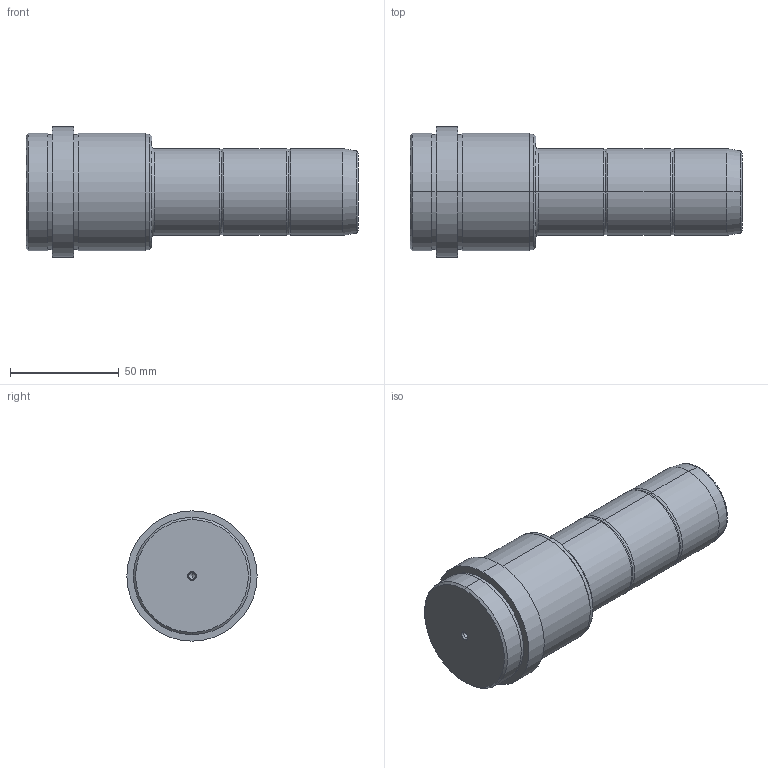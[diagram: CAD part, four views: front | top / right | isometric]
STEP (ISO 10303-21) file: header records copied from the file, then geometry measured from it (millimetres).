
FILE_DESCRIPTION( ( 'STEP AP203' ), '1' );
FILE_NAME( 'C:/Projects/D03 - 40x46x95.step', '2003-01-01T00:05:18', ( ' ' ), ( ' ' ), 'XStep 1.0', ' ', ' ' );
FILE_SCHEMA( ( 'CONFIG_CONTROL_DESIGN' ) );
Length unit declared in the file: metre
Products named in the file (1): 1
Bounding box: 153 x 60 x 60 mm (x, y, z)
Volume: 256442.2 mm3; surface area: 27591 mm2
Topology: 1 solids, 1 shells, 56 faces, 113 edges, 64 vertices
Faces by surface type: revolution 36, bspline 20
Entity records: 1691 total; most frequent: CARTESIAN_POINT 513, ORIENTED_EDGE 220, DIRECTION 218, EDGE_CURVE 110, AXIS2_PLACEMENT_3D 73, CIRCLE 72, EDGE_LOOP 64, VERTEX_POINT 64
